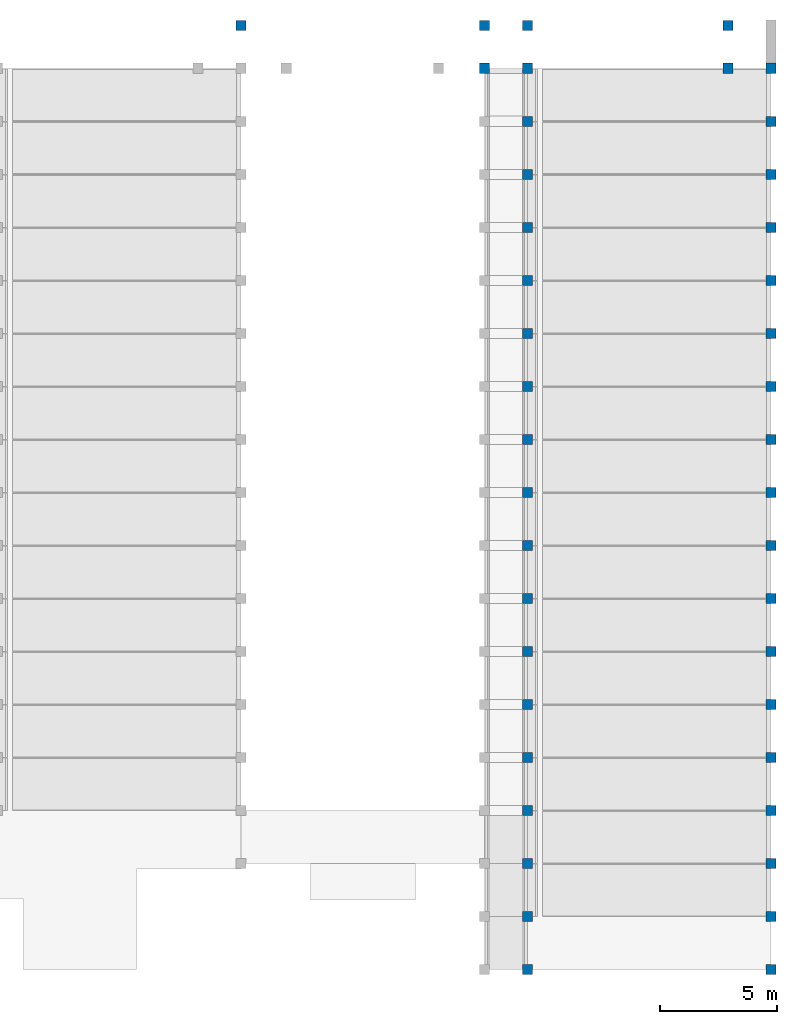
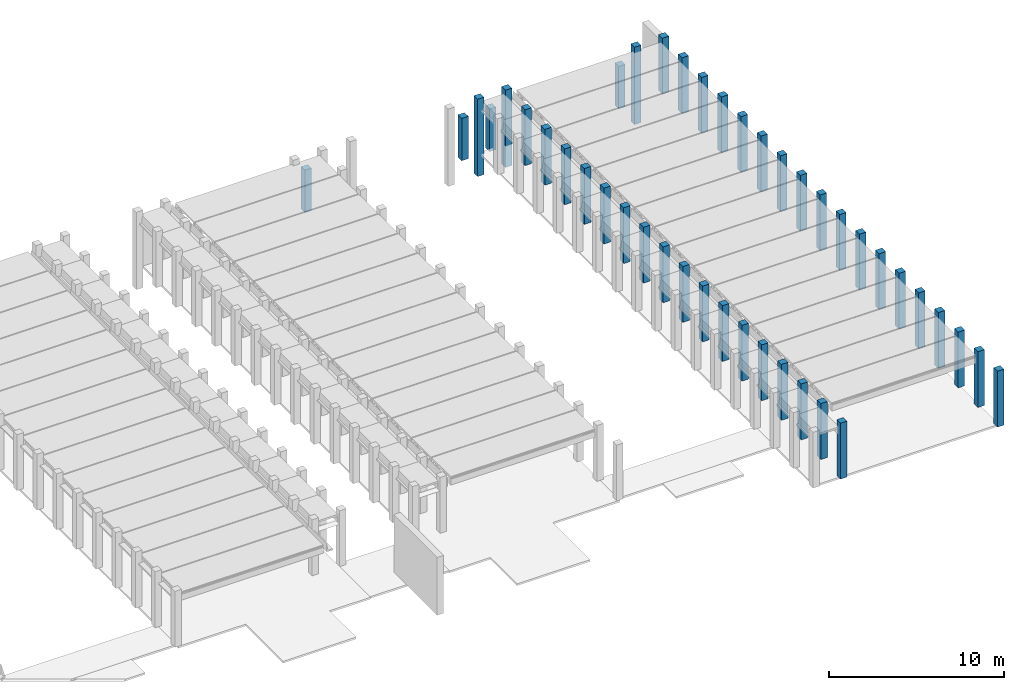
# One storey, part 2 of 21: 42 columns.
"""IFC2X3 building model written with IfcOpenShell, lengths in millimetres."""

from ifc_helpers import new_model, entity, si_unit, converted_unit, derived_unit, direction, frame, origin, origin_2d_with_axis, place, context, subcontext, project, spatial, rectangle, extrude, source, transform, mapped, material, type_object, type_shapes, element, save


model = new_model("IFC2X3")

# Units and contexts
model_context = context("Model", 3, precision=0.01, world=origin(), true_north=direction((6.12303176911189e-17, 1.0)))
body_context = subcontext(model_context, "Body", "Model", "MODEL_VIEW")
ifc_project = project(units=[si_unit("LENGTHUNIT", "METRE", prefix="MILLI"), si_unit("AREAUNIT", "SQUARE_METRE"), si_unit("VOLUMEUNIT", "CUBIC_METRE"), converted_unit("PLANEANGLEUNIT", "DEGREE", entity("IfcRatioMeasure", 0.0174532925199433), si_unit("PLANEANGLEUNIT", "RADIAN"), dimensions=[0, 0, 0, 0, 0, 0, 0]), si_unit("MASSUNIT", "GRAM", prefix="KILO"), derived_unit("MASSDENSITYUNIT", [(si_unit("MASSUNIT", "GRAM", prefix="KILO"), 1), (si_unit("LENGTHUNIT", "METRE"), -3)]), derived_unit("MOMENTOFINERTIAUNIT", [(si_unit("LENGTHUNIT", "METRE"), 4)]), si_unit("TIMEUNIT", "SECOND"), si_unit("FREQUENCYUNIT", "HERTZ"), si_unit("THERMODYNAMICTEMPERATUREUNIT", "DEGREE_CELSIUS"), derived_unit("THERMALTRANSMITTANCEUNIT", [(si_unit("MASSUNIT", "GRAM", prefix="KILO"), 1), (si_unit("THERMODYNAMICTEMPERATUREUNIT", "KELVIN"), -1), (si_unit("TIMEUNIT", "SECOND"), -3)]), derived_unit("VOLUMETRICFLOWRATEUNIT", [(si_unit("LENGTHUNIT", "METRE"), 3), (si_unit("TIMEUNIT", "SECOND"), -1)]), si_unit("ELECTRICCURRENTUNIT", "AMPERE"), si_unit("ELECTRICVOLTAGEUNIT", "VOLT"), si_unit("POWERUNIT", "WATT"), si_unit("FORCEUNIT", "NEWTON", prefix="KILO"), si_unit("ILLUMINANCEUNIT", "LUX"), si_unit("LUMINOUSFLUXUNIT", "LUMEN"), si_unit("LUMINOUSINTENSITYUNIT", "CANDELA"), derived_unit("USERDEFINED", [(si_unit("MASSUNIT", "GRAM", prefix="KILO"), -1), (si_unit("LENGTHUNIT", "METRE"), -2), (si_unit("TIMEUNIT", "SECOND"), 3), (si_unit("LUMINOUSFLUXUNIT", "LUMEN"), 1)]), derived_unit("LINEARVELOCITYUNIT", [(si_unit("LENGTHUNIT", "METRE"), 1), (si_unit("TIMEUNIT", "SECOND"), -1)]), si_unit("PRESSUREUNIT", "PASCAL"), derived_unit("USERDEFINED", [(si_unit("LENGTHUNIT", "METRE"), -2), (si_unit("MASSUNIT", "GRAM", prefix="KILO"), 1), (si_unit("TIMEUNIT", "SECOND"), -2)]), derived_unit("LINEARFORCEUNIT", [(si_unit("MASSUNIT", "GRAM", prefix="KILO"), 1), (si_unit("LENGTHUNIT", "METRE"), 1), (si_unit("TIMEUNIT", "SECOND"), -2), (si_unit("LENGTHUNIT", "METRE"), -1)]), derived_unit("PLANARFORCEUNIT", [(si_unit("MASSUNIT", "GRAM", prefix="KILO"), 1), (si_unit("LENGTHUNIT", "METRE"), 1), (si_unit("TIMEUNIT", "SECOND"), -2), (si_unit("LENGTHUNIT", "METRE"), -2)])], contexts=[model_context])

# Site, building, storey
site_placement = place(None, frame((10627.5135316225, 21939.0796949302, 0.0)))
site = spatial("IfcSite", under=ifc_project, at=site_placement, Name="Default", CompositionType="ELEMENT")
building_placement = place(site_placement, origin())
building = spatial("IfcBuilding", under=site, at=building_placement, CompositionType="ELEMENT")
storey_placement = place(building_placement, frame((0.0, 0.0, 7320.0)))
storey = spatial("IfcBuildingStorey", under=building, at=storey_placement, Name="R+2", CompositionType="ELEMENT", Elevation=7320.0)

# Columns
ifc_material = material(Name="Concrete, Precast Smooth, Light Grey")
column_type_1 = type_object("IfcColumnType", Name="M_Precast-Square Column:430x430", PredefinedType="COLUMN", material=ifc_material)
shared_shape_1 = source(origin(), body_context, "Body", "SweptSolid", [
    extrude(rectangle(XDim=430.0, YDim=430.0, at=origin_2d_with_axis()), frame((0.0, 0.0, 5820.0), z_axis=(0.0, 0.0, 1.0), x_axis=(0.0, -1.0, 0.0)), (0.0, 0.0, 1.0), 5410.0),
])
type_shapes(column_type_1, [shared_shape_1])
column_placement = place(storey_placement, frame((53402.4864683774, 16480.9203050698, -7320.0), z_axis=(0.0, 0.0, 1.0), x_axis=(-1.0, 0.0, 0.0)))
element("IfcColumn", 1, at=column_placement, inside=storey, type_object=column_type_1, material=ifc_material, Name="M_Precast-Square Column:430x430", ObjectType="M_Precast-Square Column:430x430", context=body_context, shape_type="MappedRepresentation", body=[
    mapped(shared_shape_1, transform((0.0, 0.0, 0.0), scale=1.0)),
])
for number, where, name in (
    (2, (51572.4864683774, 16480.9203050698, -7320.0), "M_Precast-Square Column:430x430"),
    (3, (61952.4864683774, 16480.9203050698, -7320.0), "M_Precast-Square Column:430x430"),
):
    element("IfcColumn", number, at=place(storey_placement, frame(where)), inside=storey, type_object=column_type_1, material=ifc_material, Name=name, ObjectType="M_Precast-Square Column:430x430", context=body_context, shape_type="MappedRepresentation", body=[
        mapped(shared_shape_1, transform((0.0, 0.0, 0.0), scale=1.0)),
    ])
column_type_2 = type_object("IfcColumnType", Name="M_Precast-Square Column:430x430", PredefinedType="COLUMN", material=ifc_material)
shared_shape_2 = source(origin(), body_context, "Body", "SweptSolid", [
    extrude(rectangle(XDim=430.0, YDim=430.0, at=origin_2d_with_axis()), frame((0.0, 0.0, 5820.0), z_axis=(0.0, 0.0, 1.0), x_axis=(0.0, -1.0, 0.0)), (0.0, 0.0, 1.0), 2970.0),
])
type_shapes(column_type_2, [shared_shape_2])
for number, where, name in (
    (4, (53402.4864683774, 18310.9203050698, -7320.0), "M_Precast-Square Column:430x430"),
    (5, (51572.4864683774, 18310.9203050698, -7320.0), "M_Precast-Square Column:430x430"),
    (6, (41192.4864683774, 18310.9203050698, -7320.0), "M_Precast-Square Column:430x430"),
    (7, (61952.4864683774, 18310.9203050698, -7320.0), "M_Precast-Square Column:430x430"),
):
    element("IfcColumn", number, at=place(storey_placement, frame(where)), inside=storey, type_object=column_type_2, material=ifc_material, Name=name, ObjectType="M_Precast-Square Column:430x430", context=body_context, shape_type="MappedRepresentation", body=[
        mapped(shared_shape_2, transform((0.0, 0.0, 0.0), scale=1.0)),
    ])
column_type_3 = type_object("IfcColumnType", Name="M_Precast-Square Column:430x430 Main floor", PredefinedType="COLUMN", material=ifc_material)
shared_shape_3 = source(origin(), body_context, "Body", "SweptSolid", [
    extrude(rectangle(XDim=430.0, YDim=430.0, at=origin_2d_with_axis()), frame((0.0, 0.0, 7320.0), z_axis=(0.0, 0.0, 1.0), x_axis=(0.0, -1.0, 0.0)), (0.0, 0.0, 1.0), 3910.0),
])
type_shapes(column_type_3, [shared_shape_3])
for number, where, name in (
    (8, (63782.4864683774, 14220.9203050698, -7320.0), "M_Precast-Square Column:430x430 Main floor"),
    (9, (63782.4864683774, 11960.9203050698, -7320.0), "M_Precast-Square Column:430x430 Main floor"),
    (10, (53402.4864683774, 14220.9203050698, -7320.0), "M_Precast-Square Column:430x430 Main floor"),
    (11, (53402.4864683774, 11960.9203050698, -7320.0), "M_Precast-Square Column:430x430 Main floor"),
    (12, (53402.4864683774, 9700.92030506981, -7320.0), "M_Precast-Square Column:430x430 Main floor"),
    (13, (63782.4864683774, 9700.92030506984, -7320.0), "M_Precast-Square Column:430x430 Main floor"),
    (14, (53402.4864683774, 7440.92030506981, -7320.0), "M_Precast-Square Column:430x430 Main floor"),
    (15, (63782.4864683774, 7440.92030506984, -7320.0), "M_Precast-Square Column:430x430 Main floor"),
    (16, (53402.4864683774, 5180.92030506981, -7320.0), "M_Precast-Square Column:430x430 Main floor"),
    (17, (63782.4864683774, 5180.92030506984, -7320.0), "M_Precast-Square Column:430x430 Main floor"),
    (18, (53402.4864683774, 2920.92030506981, -7320.0), "M_Precast-Square Column:430x430 Main floor"),
    (19, (63782.4864683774, 2920.92030506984, -7320.0), "M_Precast-Square Column:430x430 Main floor"),
    (20, (53402.4864683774, 660.920305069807, -7320.0), "M_Precast-Square Column:430x430 Main floor"),
    (21, (63782.4864683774, 660.92030506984, -7320.0), "M_Precast-Square Column:430x430 Main floor"),
    (22, (53402.4864683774, -1599.07969493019, -7320.0), "M_Precast-Square Column:430x430 Main floor"),
    (23, (63782.4864683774, -1599.07969493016, -7320.0), "M_Precast-Square Column:430x430 Main floor"),
    (24, (53402.4864683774, -3859.07969493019, -7320.0), "M_Precast-Square Column:430x430 Main floor"),
    (25, (63782.4864683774, -3859.07969493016, -7320.0), "M_Precast-Square Column:430x430 Main floor"),
    (26, (53402.4864683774, -6119.07969493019, -7320.0), "M_Precast-Square Column:430x430 Main floor"),
    (27, (63782.4864683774, -6119.07969493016, -7320.0), "M_Precast-Square Column:430x430 Main floor"),
    (28, (53402.4864683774, -8379.07969493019, -7320.0), "M_Precast-Square Column:430x430 Main floor"),
    (29, (63782.4864683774, -8379.07969493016, -7320.0), "M_Precast-Square Column:430x430 Main floor"),
    (30, (53402.4864683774, -10639.0796949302, -7320.0), "M_Precast-Square Column:430x430 Main floor"),
    (31, (63782.4864683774, -10639.0796949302, -7320.0), "M_Precast-Square Column:430x430 Main floor"),
    (32, (53402.4864683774, -12899.0796949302, -7320.0), "M_Precast-Square Column:430x430 Main floor"),
    (33, (63782.4864683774, -12899.0796949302, -7320.0), "M_Precast-Square Column:430x430 Main floor"),
    (34, (53402.4864683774, -15159.0796949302, -7320.0), "M_Precast-Square Column:430x430 Main floor"),
    (35, (63782.4864683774, -15159.0796949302, -7320.0), "M_Precast-Square Column:430x430 Main floor"),
    (36, (53402.4864683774, -17419.0796949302, -7320.0), "M_Precast-Square Column:430x430 Main floor"),
    (37, (53402.4864683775, -19679.0796949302, -7320.0), "M_Precast-Square Column:430x430 Main floor"),
    (38, (53402.4864683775, -21939.0796949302, -7320.0), "M_Precast-Square Column:430x430 Main floor"),
    (39, (63782.4864683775, -21939.0796949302, -7320.0), "M_Precast-Square Column:430x430 Main floor"),
    (40, (63782.4864683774, -17419.0796949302, -7320.0), "M_Precast-Square Column:430x430 Main floor"),
    (41, (63782.4864683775, -19679.0796949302, -7320.0), "M_Precast-Square Column:430x430 Main floor"),
    (42, (63782.4864683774, 16480.9203050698, -7320.0), "M_Precast-Square Column:430x430 Main floor"),
):
    element("IfcColumn", number, at=place(storey_placement, frame(where)), inside=storey, type_object=column_type_3, material=ifc_material, Name=name, ObjectType="M_Precast-Square Column:430x430 Main floor", context=body_context, shape_type="MappedRepresentation", body=[
        mapped(shared_shape_3, transform((0.0, 0.0, 0.0), scale=1.0)),
    ])

save(model, "model.ifc")
